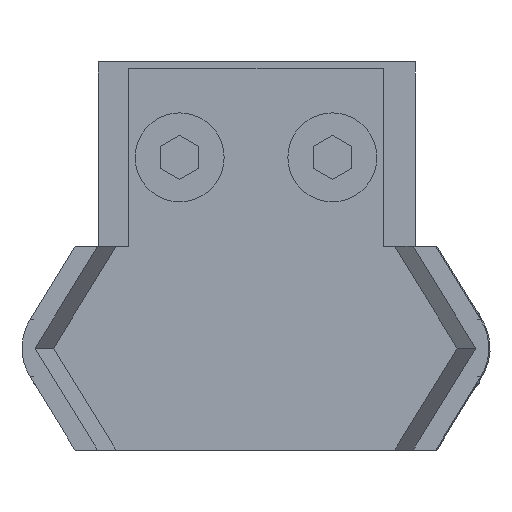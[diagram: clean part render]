
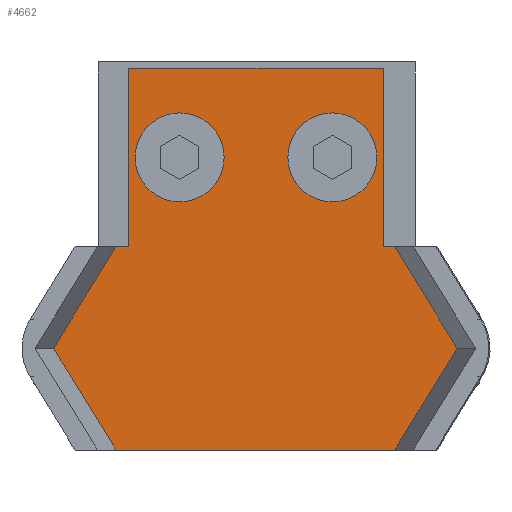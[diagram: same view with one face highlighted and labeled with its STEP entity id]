
A CAD part, left-side view. The second image highlights one B-rep face of the part: STEP entity #4662.
In plain terms, the highlighted planar face has unit normal (-1, 0, 0).
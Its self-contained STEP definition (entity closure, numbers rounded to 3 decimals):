
#65 = VERTEX_POINT ( 'NONE', #256 ) ;
#247 = CARTESIAN_POINT ( 'NONE',  ( 4., 14., 10. ) ) ;
#256 = CARTESIAN_POINT ( 'NONE',  ( 4., 0., 10.899 ) ) ;
#289 = DIRECTION ( 'NONE',  ( 0., 0., -1. ) ) ;
#379 = DIRECTION ( 'NONE',  ( 0., 0., 1. ) ) ;
#453 = ORIENTED_EDGE ( 'NONE', *, *, #638, .T. ) ;
#495 = LINE ( 'NONE', #3952, #5555 ) ;
#529 = CARTESIAN_POINT ( 'NONE',  ( 4., 0., 0. ) ) ;
#563 = CARTESIAN_POINT ( 'NONE',  ( 4., -8., 15.814 ) ) ;
#638 = EDGE_CURVE ( 'NONE', #1329, #5349, #820, .T. ) ;
#643 = VERTEX_POINT ( 'NONE', #1850 ) ;
#714 = CARTESIAN_POINT ( 'NONE',  ( 4., 14., -10. ) ) ;
#715 = ORIENTED_EDGE ( 'NONE', *, *, #3610, .F. ) ;
#762 = VECTOR ( 'NONE', #968, 1000. ) ;
#811 = VERTEX_POINT ( 'NONE', #6239 ) ;
#820 = LINE ( 'NONE', #714, #5581 ) ;
#865 = AXIS2_PLACEMENT_3D ( 'NONE', #1077, #5173, #3474 ) ;
#899 = PLANE ( 'NONE',  #5111 ) ;
#920 = EDGE_CURVE ( 'NONE', #4323, #5158, #2083, .T. ) ;
#968 = DIRECTION ( 'NONE',  ( 0., 1., 0. ) ) ;
#998 = EDGE_CURVE ( 'NONE', #811, #3413, #6208, .T. ) ;
#1055 = DIRECTION ( 'NONE',  ( 0., 0., -1. ) ) ;
#1059 = CARTESIAN_POINT ( 'NONE',  ( 4., 14., 10. ) ) ;
#1077 = CARTESIAN_POINT ( 'NONE',  ( 4., 7., 6. ) ) ;
#1099 = ORIENTED_EDGE ( 'NONE', *, *, #2216, .F. ) ;
#1329 = VERTEX_POINT ( 'NONE', #247 ) ;
#1354 = AXIS2_PLACEMENT_3D ( 'NONE', #1624, #6362, #1705 ) ;
#1402 = CARTESIAN_POINT ( 'NONE',  ( 4., -16., -10.999 ) ) ;
#1447 = EDGE_CURVE ( 'NONE', #7443, #5743, #5577, .T. ) ;
#1624 = CARTESIAN_POINT ( 'NONE',  ( 4., 7., 6. ) ) ;
#1705 = DIRECTION ( 'NONE',  ( 0., 0., -1. ) ) ;
#1741 = CARTESIAN_POINT ( 'NONE',  ( 4., 0., -10. ) ) ;
#1750 = ORIENTED_EDGE ( 'NONE', *, *, #3271, .T. ) ;
#1772 = CARTESIAN_POINT ( 'NONE',  ( 4., -16., -10.999 ) ) ;
#1782 = LINE ( 'NONE', #5057, #6096 ) ;
#1850 = CARTESIAN_POINT ( 'NONE',  ( 4., 0., 10. ) ) ;
#1942 = VERTEX_POINT ( 'NONE', #7345 ) ;
#1955 = CARTESIAN_POINT ( 'NONE',  ( 4., 7., -2.5 ) ) ;
#2030 = CARTESIAN_POINT ( 'NONE',  ( 4., 0., 0. ) ) ;
#2083 = CIRCLE ( 'NONE', #1354, 3.5 ) ;
#2153 = ORIENTED_EDGE ( 'NONE', *, *, #4577, .F. ) ;
#2216 = EDGE_CURVE ( 'NONE', #2679, #2682, #6534, .T. ) ;
#2231 = DIRECTION ( 'NONE',  ( 0., -1., 0. ) ) ;
#2247 = DIRECTION ( 'NONE',  ( -1., 0., 0. ) ) ;
#2348 = VECTOR ( 'NONE', #4641, 1000. ) ;
#2379 = VERTEX_POINT ( 'NONE', #563 ) ;
#2385 = ORIENTED_EDGE ( 'NONE', *, *, #4919, .T. ) ;
#2457 = AXIS2_PLACEMENT_3D ( 'NONE', #7266, #3817, #289 ) ;
#2581 = CARTESIAN_POINT ( 'NONE',  ( 4., -8., 15.814 ) ) ;
#2613 = EDGE_CURVE ( 'NONE', #7443, #1942, #2804, .T. ) ;
#2679 = VERTEX_POINT ( 'NONE', #1955 ) ;
#2682 = VERTEX_POINT ( 'NONE', #6214 ) ;
#2804 = LINE ( 'NONE', #1402, #3731 ) ;
#2894 = ORIENTED_EDGE ( 'NONE', *, *, #7213, .T. ) ;
#2931 = ORIENTED_EDGE ( 'NONE', *, *, #920, .F. ) ;
#2998 = LINE ( 'NONE', #3192, #5097 ) ;
#3047 = ORIENTED_EDGE ( 'NONE', *, *, #7374, .F. ) ;
#3079 = FACE_BOUND ( 'NONE', #4251, .T. ) ;
#3192 = CARTESIAN_POINT ( 'NONE',  ( 4., 0., 10.899 ) ) ;
#3200 = DIRECTION ( 'NONE',  ( 0., 0.852, -0.523 ) ) ;
#3271 = EDGE_CURVE ( 'NONE', #5349, #3413, #495, .T. ) ;
#3413 = VERTEX_POINT ( 'NONE', #1741 ) ;
#3424 = ORIENTED_EDGE ( 'NONE', *, *, #998, .F. ) ;
#3470 = EDGE_LOOP ( 'NONE', ( #2153, #1099 ) ) ;
#3474 = DIRECTION ( 'NONE',  ( 0., 0., -1. ) ) ;
#3610 = EDGE_CURVE ( 'NONE', #2379, #5743, #6620, .T. ) ;
#3620 = EDGE_CURVE ( 'NONE', #65, #2379, #2998, .T. ) ;
#3695 = DIRECTION ( 'NONE',  ( 0., 0.852, 0.523 ) ) ;
#3707 = DIRECTION ( 'NONE',  ( 0., 0., -1. ) ) ;
#3726 = DIRECTION ( 'NONE',  ( 0., -0.852, -0.523 ) ) ;
#3731 = VECTOR ( 'NONE', #3200, 1000. ) ;
#3748 = VECTOR ( 'NONE', #3695, 1000. ) ;
#3817 = DIRECTION ( 'NONE',  ( -1., 0., 0. ) ) ;
#3952 = CARTESIAN_POINT ( 'NONE',  ( 4., 0., -10. ) ) ;
#4039 = DIRECTION ( 'NONE',  ( 0., 0., -1. ) ) ;
#4226 = CARTESIAN_POINT ( 'NONE',  ( 4., 14., -10. ) ) ;
#4251 = EDGE_LOOP ( 'NONE', ( #3047, #2931 ) ) ;
#4323 = VERTEX_POINT ( 'NONE', #4712 ) ;
#4577 = EDGE_CURVE ( 'NONE', #2682, #2679, #6070, .T. ) ;
#4584 = ORIENTED_EDGE ( 'NONE', *, *, #6465, .F. ) ;
#4641 = DIRECTION ( 'NONE',  ( 0., 0., 1. ) ) ;
#4662 = ADVANCED_FACE ( 'NONE', ( #5164, #7224, #3079 ), #899, .F. ) ;
#4673 = CARTESIAN_POINT ( 'NONE',  ( 4., 7., -6. ) ) ;
#4712 = CARTESIAN_POINT ( 'NONE',  ( 4., 7., 9.5 ) ) ;
#4734 = VECTOR ( 'NONE', #3726, 1000. ) ;
#4803 = CARTESIAN_POINT ( 'NONE',  ( 4., -16., 10.899 ) ) ;
#4919 = EDGE_CURVE ( 'NONE', #643, #1329, #4998, .T. ) ;
#4967 = ORIENTED_EDGE ( 'NONE', *, *, #2613, .F. ) ;
#4998 = LINE ( 'NONE', #1059, #762 ) ;
#5057 = CARTESIAN_POINT ( 'NONE',  ( 4., 0., 10. ) ) ;
#5097 = VECTOR ( 'NONE', #7245, 1000. ) ;
#5111 = AXIS2_PLACEMENT_3D ( 'NONE', #2030, #6161, #5582 ) ;
#5158 = VERTEX_POINT ( 'NONE', #6078 ) ;
#5164 = FACE_OUTER_BOUND ( 'NONE', #5422, .T. ) ;
#5173 = DIRECTION ( 'NONE',  ( -1., 0., 0. ) ) ;
#5349 = VERTEX_POINT ( 'NONE', #4226 ) ;
#5400 = CARTESIAN_POINT ( 'NONE',  ( 4., -8., -15.914 ) ) ;
#5422 = EDGE_LOOP ( 'NONE', ( #5580, #2894, #2385, #453, #1750, #3424, #4584, #4967, #6278, #715 ) ) ;
#5555 = VECTOR ( 'NONE', #2231, 1000. ) ;
#5577 = LINE ( 'NONE', #6276, #5750 ) ;
#5580 = ORIENTED_EDGE ( 'NONE', *, *, #3620, .F. ) ;
#5581 = VECTOR ( 'NONE', #3707, 1000. ) ;
#5582 = DIRECTION ( 'NONE',  ( 0., 0., -1. ) ) ;
#5743 = VERTEX_POINT ( 'NONE', #4803 ) ;
#5750 = VECTOR ( 'NONE', #379, 1000. ) ;
#6070 = CIRCLE ( 'NONE', #2457, 3.5 ) ;
#6078 = CARTESIAN_POINT ( 'NONE',  ( 4., 7., 2.5 ) ) ;
#6096 = VECTOR ( 'NONE', #1055, 1000. ) ;
#6161 = DIRECTION ( 'NONE',  ( 1., 0., 0. ) ) ;
#6208 = LINE ( 'NONE', #529, #2348 ) ;
#6214 = CARTESIAN_POINT ( 'NONE',  ( 4., 7., -9.5 ) ) ;
#6239 = CARTESIAN_POINT ( 'NONE',  ( 4., 0., -10.999 ) ) ;
#6276 = CARTESIAN_POINT ( 'NONE',  ( 4., -16., 20. ) ) ;
#6278 = ORIENTED_EDGE ( 'NONE', *, *, #1447, .T. ) ;
#6362 = DIRECTION ( 'NONE',  ( -1., 0., 0. ) ) ;
#6376 = LINE ( 'NONE', #5400, #3748 ) ;
#6465 = EDGE_CURVE ( 'NONE', #1942, #811, #6376, .T. ) ;
#6534 = CIRCLE ( 'NONE', #6924, 3.5 ) ;
#6620 = LINE ( 'NONE', #2581, #4734 ) ;
#6924 = AXIS2_PLACEMENT_3D ( 'NONE', #4673, #2247, #4039 ) ;
#7213 = EDGE_CURVE ( 'NONE', #65, #643, #1782, .T. ) ;
#7224 = FACE_BOUND ( 'NONE', #3470, .T. ) ;
#7245 = DIRECTION ( 'NONE',  ( 0., -0.852, 0.523 ) ) ;
#7266 = CARTESIAN_POINT ( 'NONE',  ( 4., 7., -6. ) ) ;
#7345 = CARTESIAN_POINT ( 'NONE',  ( 4., -8., -15.914 ) ) ;
#7374 = EDGE_CURVE ( 'NONE', #5158, #4323, #7522, .T. ) ;
#7443 = VERTEX_POINT ( 'NONE', #1772 ) ;
#7522 = CIRCLE ( 'NONE', #865, 3.5 ) ;
